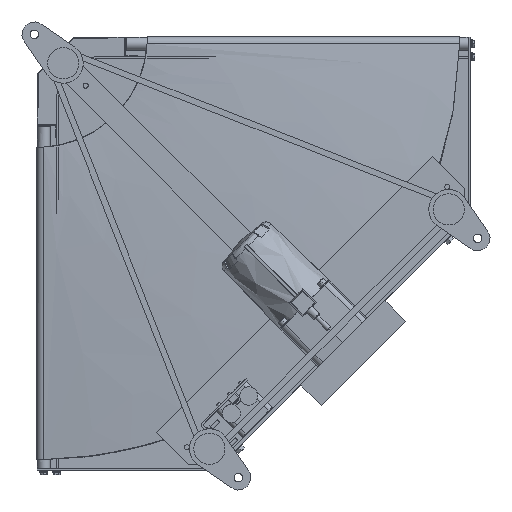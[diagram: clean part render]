
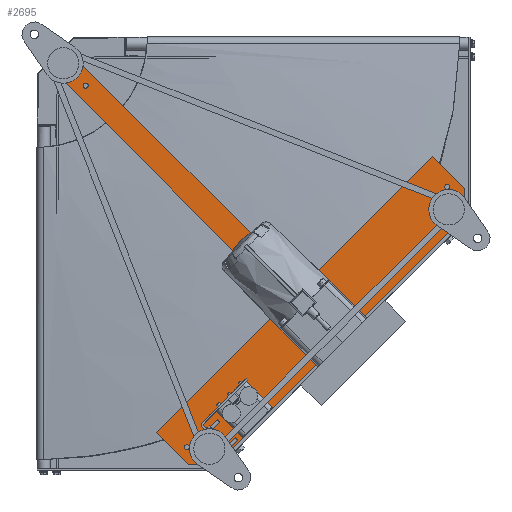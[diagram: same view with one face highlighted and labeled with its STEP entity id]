
A CAD part, front view. The second image highlights one B-rep face of the part: STEP entity #2695.
In plain terms, the highlighted planar face has unit normal (0, -1, 0).
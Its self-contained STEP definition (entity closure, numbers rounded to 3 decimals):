
#2695=ADVANCED_FACE('',(#6708),#6707,.T.);
#6707=PLANE('',#15890);
#6708=FACE_OUTER_BOUND('',#15891,.T.);
#15887=CARTESIAN_POINT('',(5.203,-167.5,-5.203));
#15888=DIRECTION('',(0.,-1.,0.));
#15889=DIRECTION('',(0.,0.,-1.));
#15890=AXIS2_PLACEMENT_3D('',#15887,#15888,#15889);
#15891=EDGE_LOOP('',(#25639,#25640,#25641,#25642,#25643,#25644,#25645,#25646,#25647,#25648));
#25639=ORIENTED_EDGE('',*,*,#29957,.F.);
#25640=ORIENTED_EDGE('',*,*,#29961,.F.);
#25641=ORIENTED_EDGE('',*,*,#29939,.F.);
#25642=ORIENTED_EDGE('',*,*,#29947,.F.);
#25643=ORIENTED_EDGE('',*,*,#29962,.F.);
#25644=ORIENTED_EDGE('',*,*,#29963,.F.);
#25645=ORIENTED_EDGE('',*,*,#29943,.F.);
#25646=ORIENTED_EDGE('',*,*,#29964,.F.);
#25647=ORIENTED_EDGE('',*,*,#29965,.F.);
#25648=ORIENTED_EDGE('',*,*,#29933,.F.);
#29933=EDGE_CURVE('',#36991,#36992,#36993,.T.);
#29939=EDGE_CURVE('',#37033,#37034,#37035,.T.);
#29943=EDGE_CURVE('',#37061,#37062,#37063,.T.);
#29947=EDGE_CURVE('',#37089,#37033,#37090,.T.);
#29957=EDGE_CURVE('',#37156,#36991,#37157,.T.);
#29961=EDGE_CURVE('',#37034,#37156,#37182,.T.);
#29962=EDGE_CURVE('',#37188,#37089,#37189,.T.);
#29963=EDGE_CURVE('',#37062,#37188,#37195,.T.);
#29964=EDGE_CURVE('',#37201,#37061,#37202,.T.);
#29965=EDGE_CURVE('',#36992,#37201,#37208,.T.);
#36991=VERTEX_POINT('',#52170);
#36992=VERTEX_POINT('',#52171);
#36993=LINE('',#52172,#52173);
#37033=VERTEX_POINT('',#52196);
#37034=VERTEX_POINT('',#52197);
#37035=LINE('',#52198,#52199);
#37061=VERTEX_POINT('',#52212);
#37062=VERTEX_POINT('',#52213);
#37063=LINE('',#52214,#52215);
#37089=VERTEX_POINT('',#52228);
#37090=LINE('',#52229,#52230);
#37156=VERTEX_POINT('',#52265);
#37157=LINE('',#52266,#52267);
#37182=LINE('',#52279,#52280);
#37188=VERTEX_POINT('',#52282);
#37189=LINE('',#52283,#52284);
#37195=LINE('',#52286,#52287);
#37201=VERTEX_POINT('',#52289);
#37202=LINE('',#52290,#52291);
#37208=LINE('',#52293,#52294);
#52170=CARTESIAN_POINT('',(15.203,-167.5,-42.073));
#52171=CARTESIAN_POINT('',(42.073,-167.5,-15.203));
#52172=CARTESIAN_POINT('',(15.203,-167.5,-42.073));
#52173=VECTOR('',#52174,38.);
#52174=DIRECTION('',(0.707,0.,0.707));
#52196=CARTESIAN_POINT('',(232.638,-167.5,-656.902));
#52197=CARTESIAN_POINT('',(183.141,-167.5,-607.405));
#52198=CARTESIAN_POINT('',(232.638,-167.5,-656.902));
#52199=VECTOR('',#52200,70.);
#52200=DIRECTION('',(-0.707,0.,0.707));
#52212=CARTESIAN_POINT('',(607.405,-167.5,-183.141));
#52213=CARTESIAN_POINT('',(656.902,-167.5,-232.638));
#52214=CARTESIAN_POINT('',(607.405,-167.5,-183.141));
#52215=VECTOR('',#52216,70.);
#52216=DIRECTION('',(0.707,0.,-0.707));
#52228=CARTESIAN_POINT('',(275.065,-167.5,-656.902));
#52229=CARTESIAN_POINT('',(275.065,-167.5,-656.902));
#52230=VECTOR('',#52231,42.426);
#52231=DIRECTION('',(-1.,0.,0.));
#52265=CARTESIAN_POINT('',(381.838,-167.5,-408.708));
#52266=CARTESIAN_POINT('',(381.838,-167.5,-408.708));
#52267=VECTOR('',#52268,518.5);
#52268=DIRECTION('',(-0.707,0.,0.707));
#52279=CARTESIAN_POINT('',(183.141,-167.5,-607.405));
#52280=VECTOR('',#52281,281.);
#52281=DIRECTION('',(0.707,0.,0.707));
#52282=CARTESIAN_POINT('',(656.902,-167.5,-275.065));
#52283=CARTESIAN_POINT('',(656.902,-167.5,-275.065));
#52284=VECTOR('',#52285,540.);
#52285=DIRECTION('',(-0.707,0.,-0.707));
#52286=CARTESIAN_POINT('',(656.902,-167.5,-232.638));
#52287=VECTOR('',#52288,42.426);
#52288=DIRECTION('',(0.,0.,-1.));
#52289=CARTESIAN_POINT('',(408.708,-167.5,-381.838));
#52290=CARTESIAN_POINT('',(408.708,-167.5,-381.838));
#52291=VECTOR('',#52292,281.);
#52292=DIRECTION('',(0.707,0.,0.707));
#52293=CARTESIAN_POINT('',(42.073,-167.5,-15.203));
#52294=VECTOR('',#52295,518.5);
#52295=DIRECTION('',(0.707,0.,-0.707));
